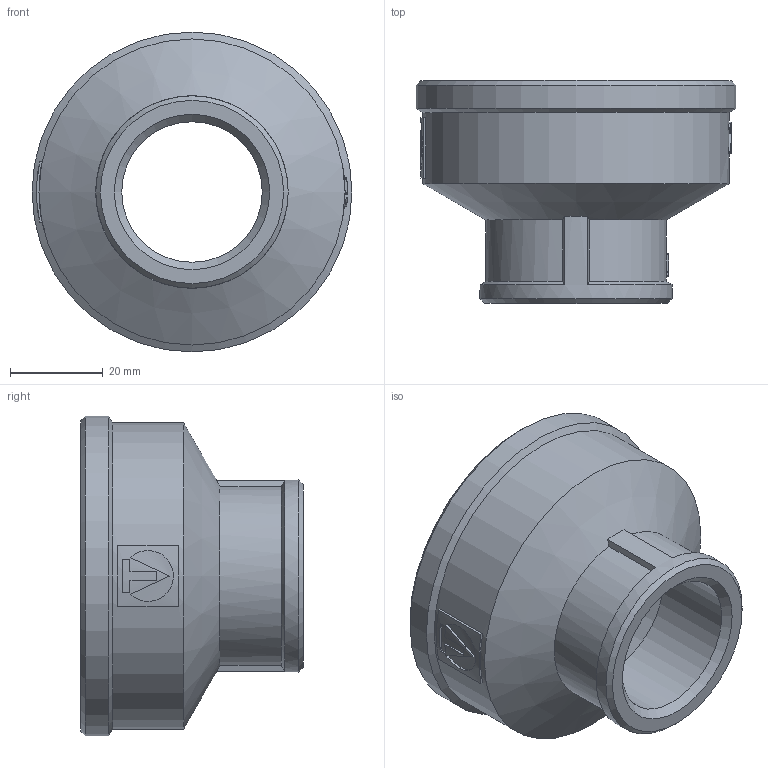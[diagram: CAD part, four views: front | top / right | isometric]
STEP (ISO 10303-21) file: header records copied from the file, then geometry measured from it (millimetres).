
FILE_DESCRIPTION(('STEP AP203'), '1');
FILE_NAME('VTr.240.N.0906', '', ('UNSPECIFIED'), ('UNSPECIFIED'), 'C3D Converter', 'C3D Toolkit', '');
FILE_SCHEMA(('CONFIG_CONTROL_DESIGN'));
Length unit declared in the file: millimetre
Products named in the file (1): ВР.714361.010
Bounding box: 69 x 48 x 69 mm (x, y, z)
Volume: 38658.4 mm3; surface area: 18935.2 mm2
Topology: 1 solids, 1 shells, 139 faces, 379 edges, 250 vertices
Faces by surface type: extrusion 66, plane 47, cylinder 17, cone 9
Full cylindrical faces by diameter (mm): 30.292 x1, 41.5 x1, 56.657 x1, 66 x1, 69 x1
Entity records: 6274 total; most frequent: CARTESIAN_POINT 3154, ORIENTED_EDGE 732, DIRECTION 430, EDGE_CURVE 366, VERTEX_POINT 250, B_SPLINE_CURVE_WITH_KNOTS 208, VECTOR 198, EDGE_LOOP 162
